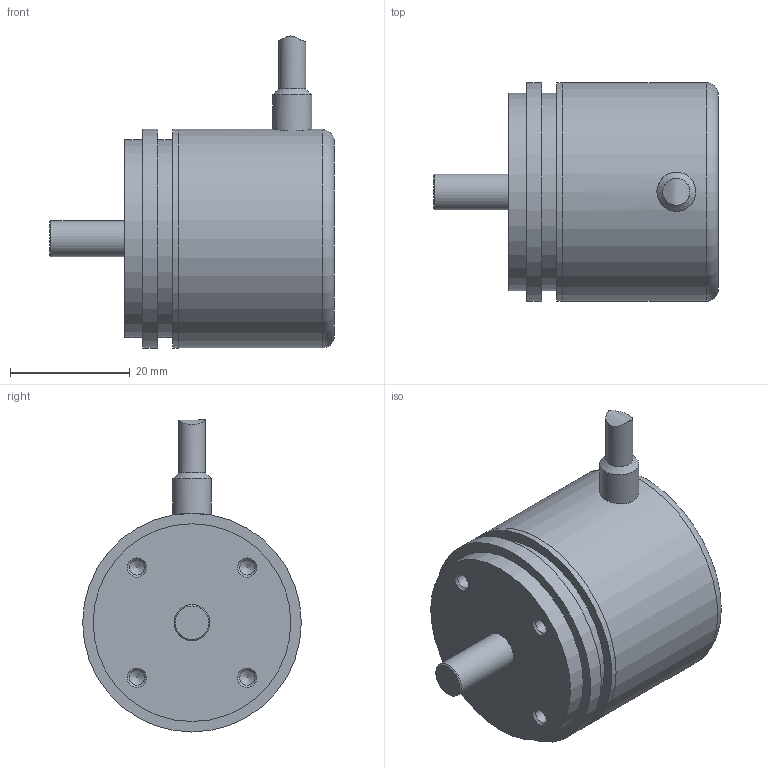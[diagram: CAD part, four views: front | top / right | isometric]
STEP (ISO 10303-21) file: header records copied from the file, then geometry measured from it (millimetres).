
FILE_DESCRIPTION (( 'STEP AP203' ), '1' );
FILE_NAME ('8.3610.23X2.XXXX.STEP', '2013-05-13T11:09:53', ( 'Hodot' ), ( '' ), 'SwSTEP 2.0', 'SolidWorks 2012', '' );
FILE_SCHEMA (( 'CONFIG_CONTROL_DESIGN' ));
Length unit declared in the file: millimetre
Products named in the file (1): 8.3610.23X2.XXXX
Bounding box: 47.5 x 36.5 x 52.07 mm (x, y, z)
Volume: 35992.2 mm3; surface area: 7070.7 mm2
Topology: 1 solids, 1 shells, 31 faces, 60 edges, 37 vertices
Faces by surface type: cylinder 12, cone 10, plane 7, torus 1, bspline 1
Full cylindrical faces by diameter (mm): 2.5 x4, 4.5 x1, 6 x1, 6.5 x1, 33 x2, 36.49 x1, 36.5 x2
Entity records: 819 total; most frequent: CARTESIAN_POINT 229, DIRECTION 118, EDGE_LOOP 60, ORIENTED_EDGE 60, AXIS2_PLACEMENT_3D 59, FACE_OUTER_BOUND 44, ADVANCED_FACE 31, EDGE_CURVE 30
